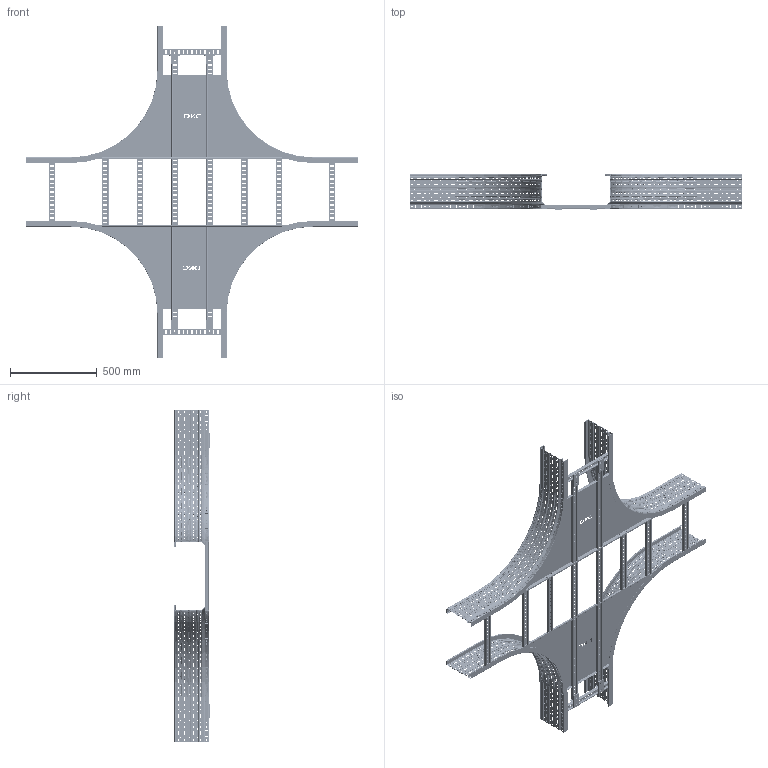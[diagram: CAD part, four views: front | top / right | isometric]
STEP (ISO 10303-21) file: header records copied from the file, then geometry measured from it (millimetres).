
FILE_DESCRIPTION (( 'STEP AP203' ), '1' );
FILE_NAME ('Õ-îòâåòâèòåëü H-200 ëåñòíè÷íûé.STEP', '2015-01-23T07:29:20', ( '' ), ( '' ), 'SwSTEP 2.0', 'SolidWorks 2014', '' );
FILE_SCHEMA (( 'CONFIG_CONTROL_DESIGN' ));
Length unit declared in the file: millimetre
Products named in the file (6): Õ-îòâåòâèòåëü H-200 ëåñòíè÷íûé; Traversino 39x19x1.5_1_400:(1,2); Îñíîâàíèå äëÿ ïðîôèëèðîâàííîãî ëîíæåðîíà (íîâîå)_base DPT DPX 1,0-400; òðàâåðñà äëèííàÿ  39x19x1.5 Õ-îòâåòâèòåëü_400(1560,6); BMD-10 plate_34009HDZ; 呧翲歑鍙 碴麔謥臇鴇 200
Assembly tree (20 placements, depth 2):
  Õ-îòâåòâèòåëü H-200 ëåñòíè÷íûé
    呧翲歑鍙 碴麔謥臇鴇 200  x4
    Traversino 39x19x1.5_1_400:(1,2)  x8
    Îñíîâàíèå äëÿ ïðîôèëèðîâàííîãî ëîíæåðîíà (íîâîå)_base DPT DPX 1,0-400  x2
    òðàâåðñà äëèííàÿ  39x19x1.5 Õ-îòâåòâèòåëü_400(1560,6)  x2
    BMD-10 plate_34009HDZ  x4
Bounding box: 1913.8 x 202.4 x 1913.8 mm (x, y, z)
Volume: 3969087.3 mm3; surface area: 5803756.8 mm2
Topology: 20 solids, 20 shells, 13060 faces, 37168 edges, 24324 vertices
Faces by surface type: plane 6372, cylinder 5268, bspline 1236, torus 168, cone 16
Entity records: 143799 total; most frequent: CARTESIAN_POINT 47840, ORIENTED_EDGE 20920, DIRECTION 17898, EDGE_CURVE 10460, VERTEX_POINT 6857, LINE 6344, VECTOR 6344, AXIS2_PLACEMENT_3D 5777
